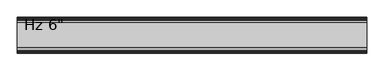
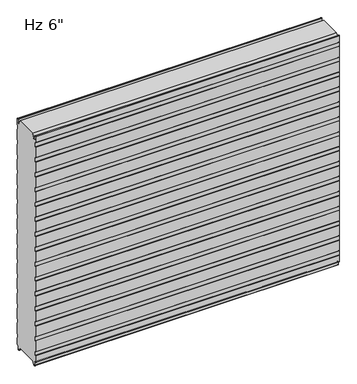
"""IFC4 building model written with IfcOpenShell, lengths in millimetres: plate geometry."""

from ifc_helpers import new_model, si_unit, frame, origin, place, context, project, spatial, polyline, circle_curve, source, transform, mapped, element, save
from ifc_brep_helpers import plane_surface, cylinder_surface, revolved_surface, advanced_brep


def plate_cc50ff87(model_context):
    return source(origin(), model_context, "Body", "AdvancedBrep", [
        advanced_brep(
        [(-730.0, -150.2088405, 1097.7830195), (-730.0, -150.2088405, 1117.5660142), (-730.0, -151.3999956, 1118.6385351), (-730.0, -151.3999956, 1150.8100652), (-730.0, -149.4227271, 1152.7873337), (-730.0, -148.3806285, 1152.7873337), (-730.0, -146.40336, 1150.8100652), (-730.0, -146.40336, 1136.6216802), (-730.0, -143.8154835, 1134.0338036), (-730.0, -139.4950653, 1134.0338036), (-730.0, -138.9060718, 1133.4253365), (-730.0, -138.9060718, 1131.0482432), (-730.0, -137.9065979, 1131.0482432), (-730.0, -137.9065979, 1136.4905123), (-730.0, -128.6490821, 1152.525), (-730.0, -23.7509179, 1152.525), (-730.0, -14.4934021, 1136.4905123), (-730.0, -14.4934021, 1131.0482432), (-730.0, -13.4939282, 1131.0482432), (-730.0, -13.4939282, 1133.4253365), (-730.0, -12.9049347, 1134.0338036), (-730.0, -8.5845165, 1134.0338036), (-730.0, -5.99664, 1136.6216802), (-730.0, -5.99664, 1150.8100652), (-730.0, -4.0193715, 1152.7873337), (-730.0, -2.9772729, 1152.7873337), (-730.0, -1.0000044, 1150.8100652), (-730.0, -1.0000044, 1118.6385351), (-730.0, -2.1911595, 1117.5660142), (-730.0, -2.1911595, 1097.7830195), (-730.0, -1.0, 1096.7104947), (-730.0, -1.0, 1043.0159187), (-730.0, -2.1911595, 1041.9433939), (-730.0, -2.1911595, 1022.1603992), (-730.0, -1.0, 1021.0878744), (-730.0, -1.0, 967.3932985), (-730.0, -2.1911595, 966.3207736), (-730.0, -2.1911595, 946.537779), (-730.0, -1.0, 945.4652541), (-730.0, -1.0, 891.7706782), (-730.0, -2.1911595, 890.6981534), (-730.0, -2.1911595, 870.9151587), (-730.0, -1.0, 869.8426339), (-730.0, -1.0, 816.148058), (-730.0, -2.1911595, 815.0755331), (-730.0, -2.1911595, 795.2925384), (-730.0, -1.0, 794.2200136), (-730.0, -1.0, 740.5254377), (-730.0, -2.1911595, 739.4529129), (-730.0, -2.1911595, 719.6699182), (-730.0, -1.0, 718.5973933), (-730.0, -1.0, 664.9028174), (-730.0, -2.1911595, 663.8302926), (-730.0, -2.1911595, 644.0472979), (-730.0, -1.0, 642.9747731), (-730.0, -1.0, 589.2801972), (-730.0, -2.1911595, 588.2076723), (-730.0, -2.1911595, 568.4246776), (-730.0, -1.0, 567.3521528), (-730.0, -1.0, 513.6575769), (-730.0, -2.1911595, 512.5850521), (-730.0, -2.1911595, 492.8020574), (-730.0, -1.0, 491.7295325), (-730.0, -1.0, 438.0349566), (-730.0, -2.1911595, 436.9624318), (-730.0, -2.1911595, 417.1794371), (-730.0, -1.0, 416.1069123), (-730.0, -1.0, 362.4123364), (-730.0, -2.1911595, 361.3398115), (-730.0, -2.1911595, 341.5568169), (-730.0, -1.0, 340.484292), (-730.0, -1.0, 286.7897161), (-730.0, -2.1911595, 285.7171913), (-730.0, -2.1911595, 265.9341966), (-730.0, -1.0, 264.8616718), (-730.0, -1.0, 211.1670958), (-730.0, -2.1911595, 210.094571), (-730.0, -2.1911595, 190.3115763), (-730.0, -1.0, 189.2390515), (-730.0, -1.0, 135.5444756), (-730.0, -2.1911595, 134.4719507), (-730.0, -2.1911595, 114.6889561), (-730.0, -1.0, 113.6164312), (-730.0, -1.0, 59.9218553), (-730.0, -2.1911595, 58.8493305), (-730.0, -2.1911595, 39.0663358), (-730.0, -1.0000109, 37.993811), (-730.0, -1.0000109, 5.8272239), (-730.0, -2.9772849, 3.8499499), (-730.0, -5.2691749, 3.8499499), (-730.0, -9.246442, -0.1273173), (-730.0, -9.246442, -15.7237417), (-730.0, -9.8343189, -16.3116186), (-730.0, -12.9058679, -16.3116186), (-730.0, -13.4937446, -15.723742), (-730.0, -13.4937446, -13.3687064), (-730.0, -14.4937446, -13.3687064), (-730.0, -14.4937446, -15.6582851), (-730.0, -23.7509179, 0.0), (-730.0, -128.6490865, 0.0), (-730.0, -137.9062554, -15.6582851), (-730.0, -137.9062554, -13.3687064), (-730.0, -138.9062554, -13.3687064), (-730.0, -138.9062554, -15.723742), (-730.0, -139.4941321, -16.3116186), (-730.0, -142.5656811, -16.3116186), (-730.0, -143.153558, -15.7237417), (-730.0, -143.153558, -0.1273173), (-730.0, -147.1308251, 3.8499499), (-730.0, -149.4227151, 3.8499499), (-730.0, -151.3999891, 5.8272239), (-730.0, -151.3999891, 37.993811), (-730.0, -150.2088405, 39.0663358), (-730.0, -150.2088405, 58.8493305), (-730.0, -151.4, 59.9218553), (-730.0, -151.4, 113.6164312), (-730.0, -150.2088405, 114.6889561), (-730.0, -150.2088405, 134.4719507), (-730.0, -151.4, 135.5444756), (-730.0, -151.4, 189.2390515), (-730.0, -150.2088405, 190.3115763), (-730.0, -150.2088405, 210.094571), (-730.0, -151.4, 211.1670958), (-730.0, -151.4, 264.8616718), (-730.0, -150.2088405, 265.9341966), (-730.0, -150.2088405, 285.7171913), (-730.0, -151.4, 286.7897161), (-730.0, -151.4, 340.484292), (-730.0, -150.2088405, 341.5568169), (-730.0, -150.2088405, 361.3398115), (-730.0, -151.4, 362.4123364), (-730.0, -151.4, 416.1069123), (-730.0, -150.2088405, 417.1794371), (-730.0, -150.2088405, 436.9624318), (-730.0, -151.4, 438.0349566), (-730.0, -151.4, 491.7295325), (-730.0, -150.2088405, 492.8020574), (-730.0, -150.2088405, 512.5850521), (-730.0, -151.4, 513.6575769), (-730.0, -151.4, 567.3521528), (-730.0, -150.2088405, 568.4246776), (-730.0, -150.2088405, 588.2076723), (-730.0, -151.4, 589.2801972), (-730.0, -151.4, 642.9747731), (-730.0, -150.2088405, 644.0472979), (-730.0, -150.2088405, 663.8302926), (-730.0, -151.4, 664.9028174), (-730.0, -151.4, 718.5973933), (-730.0, -150.2088405, 719.6699182), (-730.0, -150.2088405, 739.4529129), (-730.0, -151.4, 740.5254377), (-730.0, -151.4, 794.2200136), (-730.0, -150.2088405, 795.2925384), (-730.0, -150.2088405, 815.0755331), (-730.0, -151.4, 816.148058), (-730.0, -151.4, 869.8426339), (-730.0, -150.2088405, 870.9151587), (-730.0, -150.2088405, 890.6981534), (-730.0, -151.4, 891.7706782), (-730.0, -151.4, 945.4652541), (-730.0, -150.2088405, 946.537779), (-730.0, -150.2088405, 966.3207736), (-730.0, -151.4, 967.3932985), (-730.0, -151.4, 1021.0878744), (-730.0, -150.2088405, 1022.1603992), (-730.0, -150.2088405, 1041.9433939), (-730.0, -151.4, 1043.0159187), (-730.0, -151.4, 1096.7104947), (730.0, -150.2088405, 1097.7830195), (730.0, -151.4, 1096.7104947), (730.0, -151.4, 1043.0159187), (730.0, -150.2088405, 1041.9433939), (730.0, -150.2088405, 1022.1603992), (730.0, -151.4, 1021.0878744), (730.0, -151.4, 967.3932985), (730.0, -150.2088405, 966.3207736), (730.0, -150.2088405, 946.537779), (730.0, -151.4, 945.4652541), (730.0, -151.4, 891.7706782), (730.0, -150.2088405, 890.6981534), (730.0, -150.2088405, 870.9151587), (730.0, -151.4, 869.8426339), (730.0, -151.4, 816.148058), (730.0, -150.2088405, 815.0755331), (730.0, -150.2088405, 795.2925384), (730.0, -151.4, 794.2200136), (730.0, -151.4, 740.5254377), (730.0, -150.2088405, 739.4529129), (730.0, -150.2088405, 719.6699182), (730.0, -151.4, 718.5973933), (730.0, -151.4, 664.9028174), (730.0, -150.2088405, 663.8302926), (730.0, -150.2088405, 644.0472979), (730.0, -151.4, 642.9747731), (730.0, -151.4, 589.2801972), (730.0, -150.2088405, 588.2076723), (730.0, -150.2088405, 568.4246776), (730.0, -151.4, 567.3521528), (730.0, -151.4, 513.6575769), (730.0, -150.2088405, 512.5850521), (730.0, -150.2088405, 492.8020574), (730.0, -151.4, 491.7295325), (730.0, -151.4, 438.0349566), (730.0, -150.2088405, 436.9624318), (730.0, -150.2088405, 417.1794371), (730.0, -151.4, 416.1069123), (730.0, -151.4, 362.4123364), (730.0, -150.2088405, 361.3398115), (730.0, -150.2088405, 341.5568169), (730.0, -151.4, 340.484292), (730.0, -151.4, 286.7897161), (730.0, -150.2088405, 285.7171913), (730.0, -150.2088405, 265.9341966), (730.0, -151.4, 264.8616718), (730.0, -151.4, 211.1670958), (730.0, -150.2088405, 210.094571), (730.0, -150.2088405, 190.3115763), (730.0, -151.4, 189.2390515), (730.0, -151.4, 135.5444756), (730.0, -150.2088405, 134.4719507), (730.0, -150.2088405, 114.6889561), (730.0, -151.4, 113.6164312), (730.0, -151.4, 59.9218553), (730.0, -150.2088405, 58.8493305), (730.0, -150.2088405, 39.0663358), (730.0, -151.3999891, 37.993811), (730.0, -151.3999891, 5.8272239), (730.0, -149.4227151, 3.8499499), (730.0, -147.1308251, 3.8499499), (730.0, -143.153558, -0.1273173), (730.0, -143.153558, -15.7237417), (730.0, -142.5656811, -16.3116186), (730.0, -139.4941321, -16.3116186), (730.0, -138.9062554, -15.723742), (730.0, -138.9062554, -13.3687064), (730.0, -137.9062554, -13.3687064), (730.0, -137.9062554, -15.6582851), (730.0, -128.6490821, 0.0), (730.0, -23.7509179, 0.0), (730.0, -14.4937446, -15.6582851), (730.0, -14.4937446, -13.3687064), (730.0, -13.4937446, -13.3687064), (730.0, -13.4937446, -15.723742), (730.0, -12.9058679, -16.3116186), (730.0, -9.8343189, -16.3116186), (730.0, -9.246442, -15.7237417), (730.0, -9.246442, -0.1273173), (730.0, -5.2691749, 3.8499499), (730.0, -2.9772849, 3.8499499), (730.0, -1.0000109, 5.8272239), (730.0, -1.0000109, 37.993811), (730.0, -2.1911595, 39.0663358), (730.0, -2.1911595, 58.8493305), (730.0, -1.0, 59.9218553), (730.0, -1.0, 113.6164312), (730.0, -2.1911595, 114.6889561), (730.0, -2.1911595, 134.4719507), (730.0, -1.0, 135.5444756), (730.0, -1.0, 189.2390515), (730.0, -2.1911595, 190.3115763), (730.0, -2.1911595, 210.094571), (730.0, -1.0, 211.1670958), (730.0, -1.0, 264.8616718), (730.0, -2.1911595, 265.9341966), (730.0, -2.1911595, 285.7171913), (730.0, -1.0, 286.7897161), (730.0, -1.0, 340.484292), (730.0, -2.1911595, 341.5568169), (730.0, -2.1911595, 361.3398115), (730.0, -1.0, 362.4123364), (730.0, -1.0, 416.1069123), (730.0, -2.1911595, 417.1794371), (730.0, -2.1911595, 436.9624318), (730.0, -1.0, 438.0349566), (730.0, -1.0, 491.7295325), (730.0, -2.1911595, 492.8020574), (730.0, -2.1911595, 512.5850521), (730.0, -1.0, 513.6575769), (730.0, -1.0, 567.3521528), (730.0, -2.1911595, 568.4246776), (730.0, -2.1911595, 588.2076723), (730.0, -1.0, 589.2801972), (730.0, -1.0, 642.9747731), (730.0, -2.1911595, 644.0472979), (730.0, -2.1911595, 663.8302926), (730.0, -1.0, 664.9028174), (730.0, -1.0, 718.5973933), (730.0, -2.1911595, 719.6699182), (730.0, -2.1911595, 739.4529129), (730.0, -1.0, 740.5254377), (730.0, -1.0, 794.2200136), (730.0, -2.1911595, 795.2925384), (730.0, -2.1911595, 815.0755331), (730.0, -1.0, 816.148058), (730.0, -1.0, 869.8426339), (730.0, -2.1911595, 870.9151587), (730.0, -2.1911595, 890.6981534), (730.0, -1.0, 891.7706782), (730.0, -1.0, 945.4652541), (730.0, -2.1911595, 946.537779), (730.0, -2.1911595, 966.3207736), (730.0, -1.0, 967.3932985), (730.0, -1.0, 1021.0878744), (730.0, -2.1911595, 1022.1603992), (730.0, -2.1911595, 1041.9433939), (730.0, -1.0, 1043.0159187), (730.0, -1.0, 1096.7104947), (730.0, -2.1911595, 1097.7830195), (730.0, -2.1911595, 1117.5660142), (730.0, -1.0000044, 1118.6385351), (730.0, -1.0000044, 1150.8100652), (730.0, -2.9772729, 1152.7873337), (730.0, -4.0193715, 1152.7873337), (730.0, -5.99664, 1150.8100652), (730.0, -5.99664, 1136.6216802), (730.0, -8.5845165, 1134.0338036), (730.0, -12.9049347, 1134.0338036), (730.0, -13.4939282, 1133.4253365), (730.0, -13.4939282, 1131.0482432), (730.0, -14.4934021, 1131.0482432), (730.0, -14.4934021, 1136.4905123), (730.0, -23.7509179, 1152.525), (730.0, -128.6490865, 1152.525), (730.0, -137.9065979, 1136.4905123), (730.0, -137.9065979, 1131.0482432), (730.0, -138.9060718, 1131.0482432), (730.0, -138.9060718, 1133.4253365), (730.0, -139.4950653, 1134.0338036), (730.0, -143.8154835, 1134.0338036), (730.0, -146.40336, 1136.6216802), (730.0, -146.40336, 1150.8100652), (730.0, -148.3806285, 1152.7873337), (730.0, -149.4227271, 1152.7873337), (730.0, -151.3999956, 1150.8100652), (730.0, -151.3999956, 1118.6385351), (730.0, -150.2088405, 1117.5660142)],
        [
            (0, 1),
            (1, 2),
            (2, 3),
            (3, 4, circle_curve(frame((-730.0, -149.4227271, 1150.8100652), z_axis=(-1.0, 0.0, 0.0), x_axis=(0.0, 0.0, -1.0)), 1.9772685)),
            (4, 5),
            (5, 6, circle_curve(frame((-730.0, -148.3806285, 1150.8100652), z_axis=(-1.0, 0.0, 0.0), x_axis=(0.0, 0.0, -1.0)), 1.9772685)),
            (6, 7),
            (7, 8, circle_curve(frame((-730.0, -143.8154835, 1136.6216802), z_axis=(1.0, 0.0, 0.0), x_axis=(0.0, 0.0, -1.0)), 2.5878765)),
            (8, 9),
            (9, 10, circle_curve(frame((-730.0, -139.4950653, 1133.4444985), z_axis=(-1.0, 0.0, 0.0), x_axis=(0.0, 0.0, -1.0)), 0.5893051)),
            (10, 11),
            (11, 12),
            (12, 13),
            (13, 14),
            (14, 15),
            (15, 16),
            (16, 17),
            (17, 18),
            (18, 19),
            (19, 20, circle_curve(frame((-730.0, -12.9049347, 1133.4444985), z_axis=(-1.0, 0.0, 0.0), x_axis=(0.0, 1.0, 0.0)), 0.5893051)),
            (20, 21),
            (21, 22, circle_curve(frame((-730.0, -8.5845165, 1136.6216802), z_axis=(1.0, 0.0, 0.0), x_axis=(0.0, 1.0, 0.0)), 2.5878765)),
            (22, 23),
            (23, 24, circle_curve(frame((-730.0, -4.0193715, 1150.8100652), z_axis=(-1.0, 0.0, 0.0), x_axis=(0.0, 1.0, 0.0)), 1.9772685)),
            (24, 25),
            (25, 26, circle_curve(frame((-730.0, -2.9772729, 1150.8100652), z_axis=(-1.0, 0.0, 0.0), x_axis=(0.0, 1.0, 0.0)), 1.9772685)),
            (26, 27),
            (27, 28),
            (28, 29),
            (29, 30),
            (30, 31),
            (31, 32),
            (32, 33),
            (33, 34),
            (34, 35),
            (35, 36),
            (36, 37),
            (37, 38),
            (38, 39),
            (39, 40),
            (40, 41),
            (41, 42),
            (42, 43),
            (43, 44),
            (44, 45),
            (45, 46),
            (46, 47),
            (47, 48),
            (48, 49),
            (49, 50),
            (50, 51),
            (51, 52),
            (52, 53),
            (53, 54),
            (54, 55),
            (55, 56),
            (56, 57),
            (57, 58),
            (58, 59),
            (59, 60),
            (60, 61),
            (61, 62),
            (62, 63),
            (63, 64),
            (64, 65),
            (65, 66),
            (66, 67),
            (67, 68),
            (68, 69),
            (69, 70),
            (70, 71),
            (71, 72),
            (72, 73),
            (73, 74),
            (74, 75),
            (75, 76),
            (76, 77),
            (77, 78),
            (78, 79),
            (79, 80),
            (80, 81),
            (81, 82),
            (82, 83),
            (83, 84),
            (84, 85),
            (85, 86),
            (86, 87),
            (87, 88, circle_curve(frame((-730.0, -2.9772849, 5.8272239), z_axis=(-1.0, 0.0, 0.0), x_axis=(0.0, 1.0, 0.0)), 1.977274)),
            (88, 89),
            (89, 90, circle_curve(frame((-730.0, -5.2691749, -0.1273173), z_axis=(1.0, 0.0, 0.0), x_axis=(0.0, 1.0, 0.0)), 3.9772671)),
            (90, 91),
            (91, 92, circle_curve(frame((-730.0, -9.8343189, -15.7237417), z_axis=(-1.0, 0.0, 0.0), x_axis=(0.0, 1.0, 0.0)), 0.5878769)),
            (92, 93),
            (93, 94, circle_curve(frame((-730.0, -12.9058679, -15.723742), z_axis=(-1.0, 0.0, 0.0), x_axis=(0.0, 1.0, 0.0)), 0.5878766)),
            (94, 95),
            (95, 96),
            (96, 97),
            (97, 98),
            (98, 99),
            (99, 100),
            (100, 101),
            (101, 102),
            (102, 103),
            (103, 104, circle_curve(frame((-730.0, -139.4941321, -15.723742), z_axis=(-1.0, 0.0, 0.0), x_axis=(0.0, 0.0, -1.0)), 0.5878766)),
            (104, 105),
            (105, 106, circle_curve(frame((-730.0, -142.5656811, -15.7237417), z_axis=(-1.0, 0.0, 0.0), x_axis=(0.0, 0.0, -1.0)), 0.5878769)),
            (106, 107),
            (107, 108, circle_curve(frame((-730.0, -147.1308251, -0.1273173), z_axis=(1.0, 0.0, 0.0), x_axis=(0.0, 0.0, -1.0)), 3.9772671)),
            (108, 109),
            (109, 110, circle_curve(frame((-730.0, -149.4227151, 5.8272239), z_axis=(-1.0, 0.0, 0.0), x_axis=(0.0, 0.0, -1.0)), 1.977274)),
            (110, 111),
            (111, 112),
            (112, 113),
            (113, 114),
            (114, 115),
            (115, 116),
            (116, 117),
            (117, 118),
            (118, 119),
            (119, 120),
            (120, 121),
            (121, 122),
            (122, 123),
            (123, 124),
            (124, 125),
            (125, 126),
            (126, 127),
            (127, 128),
            (128, 129),
            (129, 130),
            (130, 131),
            (131, 132),
            (132, 133),
            (133, 134),
            (134, 135),
            (135, 136),
            (136, 137),
            (137, 138),
            (138, 139),
            (139, 140),
            (140, 141),
            (141, 142),
            (142, 143),
            (143, 144),
            (144, 145),
            (145, 146),
            (146, 147),
            (147, 148),
            (148, 149),
            (149, 150),
            (150, 151),
            (151, 152),
            (152, 153),
            (153, 154),
            (154, 155),
            (155, 156),
            (156, 157),
            (157, 158),
            (158, 159),
            (159, 160),
            (160, 161),
            (161, 162),
            (162, 163),
            (163, 164),
            (164, 165),
            (165, 166),
            (166, 167),
            (167, 0),
            (168, 169),
            (169, 170),
            (170, 171),
            (171, 172),
            (172, 173),
            (173, 174),
            (174, 175),
            (175, 176),
            (176, 177),
            (177, 178),
            (178, 179),
            (179, 180),
            (180, 181),
            (181, 182),
            (182, 183),
            (183, 184),
            (184, 185),
            (185, 186),
            (186, 187),
            (187, 188),
            (188, 189),
            (189, 190),
            (190, 191),
            (191, 192),
            (192, 193),
            (193, 194),
            (194, 195),
            (195, 196),
            (196, 197),
            (197, 198),
            (198, 199),
            (199, 200),
            (200, 201),
            (201, 202),
            (202, 203),
            (203, 204),
            (204, 205),
            (205, 206),
            (206, 207),
            (207, 208),
            (208, 209),
            (209, 210),
            (210, 211),
            (211, 212),
            (212, 213),
            (213, 214),
            (214, 215),
            (215, 216),
            (216, 217),
            (217, 218),
            (218, 219),
            (219, 220),
            (220, 221),
            (221, 222),
            (222, 223),
            (223, 224),
            (224, 225),
            (225, 226),
            (226, 227, circle_curve(frame((730.0, -149.4227151, 5.8272239), z_axis=(1.0, 0.0, 0.0), x_axis=(0.0, 0.0, -1.0)), 1.977274)),
            (227, 228),
            (228, 229, circle_curve(frame((730.0, -147.1308251, -0.1273173), z_axis=(-1.0, 0.0, 0.0), x_axis=(0.0, 0.0, -1.0)), 3.9772671)),
            (229, 230),
            (230, 231, circle_curve(frame((730.0, -142.5656811, -15.7237417), z_axis=(1.0, 0.0, 0.0), x_axis=(0.0, 0.0, -1.0)), 0.5878769)),
            (231, 232),
            (232, 233, circle_curve(frame((730.0, -139.4941321, -15.723742), z_axis=(1.0, 0.0, 0.0), x_axis=(0.0, 0.0, -1.0)), 0.5878766)),
            (233, 234),
            (234, 235),
            (235, 236),
            (236, 237),
            (237, 238),
            (238, 239),
            (239, 240),
            (240, 241),
            (241, 242),
            (242, 243, circle_curve(frame((730.0, -12.9058679, -15.723742), z_axis=(1.0, 0.0, 0.0), x_axis=(0.0, 1.0, 0.0)), 0.5878766)),
            (243, 244),
            (244, 245, circle_curve(frame((730.0, -9.8343189, -15.7237417), z_axis=(1.0, 0.0, 0.0), x_axis=(0.0, 1.0, 0.0)), 0.5878769)),
            (245, 246),
            (246, 247, circle_curve(frame((730.0, -5.2691749, -0.1273173), z_axis=(-1.0, 0.0, 0.0), x_axis=(0.0, 1.0, 0.0)), 3.9772671)),
            (247, 248),
            (248, 249, circle_curve(frame((730.0, -2.9772849, 5.8272239), z_axis=(1.0, 0.0, 0.0), x_axis=(0.0, 1.0, 0.0)), 1.977274)),
            (249, 250),
            (250, 251),
            (251, 252),
            (252, 253),
            (253, 254),
            (254, 255),
            (255, 256),
            (256, 257),
            (257, 258),
            (258, 259),
            (259, 260),
            (260, 261),
            (261, 262),
            (262, 263),
            (263, 264),
            (264, 265),
            (265, 266),
            (266, 267),
            (267, 268),
            (268, 269),
            (269, 270),
            (270, 271),
            (271, 272),
            (272, 273),
            (273, 274),
            (274, 275),
            (275, 276),
            (276, 277),
            (277, 278),
            (278, 279),
            (279, 280),
            (280, 281),
            (281, 282),
            (282, 283),
            (283, 284),
            (284, 285),
            (285, 286),
            (286, 287),
            (287, 288),
            (288, 289),
            (289, 290),
            (290, 291),
            (291, 292),
            (292, 293),
            (293, 294),
            (294, 295),
            (295, 296),
            (296, 297),
            (297, 298),
            (298, 299),
            (299, 300),
            (300, 301),
            (301, 302),
            (302, 303),
            (303, 304),
            (304, 305),
            (305, 306),
            (306, 307),
            (307, 308),
            (308, 309),
            (309, 310),
            (310, 311, circle_curve(frame((730.0, -2.9772729, 1150.8100652), z_axis=(1.0, 0.0, 0.0), x_axis=(0.0, 1.0, 0.0)), 1.9772685)),
            (311, 312),
            (312, 313, circle_curve(frame((730.0, -4.0193715, 1150.8100652), z_axis=(1.0, 0.0, 0.0), x_axis=(0.0, 1.0, 0.0)), 1.9772685)),
            (313, 314),
            (314, 315, circle_curve(frame((730.0, -8.5845165, 1136.6216802), z_axis=(-1.0, 0.0, 0.0), x_axis=(0.0, 1.0, 0.0)), 2.5878765)),
            (315, 316),
            (316, 317, circle_curve(frame((730.0, -12.9049347, 1133.4444985), z_axis=(1.0, 0.0, 0.0), x_axis=(0.0, 1.0, 0.0)), 0.5893051)),
            (317, 318),
            (318, 319),
            (319, 320),
            (320, 321),
            (321, 322),
            (322, 323),
            (323, 324),
            (324, 325),
            (325, 326),
            (326, 327, circle_curve(frame((730.0, -139.4950653, 1133.4444985), z_axis=(1.0, 0.0, 0.0), x_axis=(0.0, 0.0, -1.0)), 0.5893051)),
            (327, 328),
            (328, 329, circle_curve(frame((730.0, -143.8154835, 1136.6216802), z_axis=(-1.0, 0.0, 0.0), x_axis=(0.0, 0.0, -1.0)), 2.5878765)),
            (329, 330),
            (330, 331, circle_curve(frame((730.0, -148.3806285, 1150.8100652), z_axis=(1.0, 0.0, 0.0), x_axis=(0.0, 0.0, -1.0)), 1.9772685)),
            (331, 332),
            (332, 333, circle_curve(frame((730.0, -149.4227271, 1150.8100652), z_axis=(1.0, 0.0, 0.0), x_axis=(0.0, 0.0, -1.0)), 1.9772685)),
            (333, 334),
            (334, 335),
            (335, 168),
            (28, 308),
            (307, 29),
            (27, 309),
            (26, 310),
            (25, 311),
            (24, 312),
            (23, 313),
            (22, 314),
            (21, 315),
            (20, 316),
            (19, 317),
            (18, 318),
            (17, 319),
            (16, 320),
            (15, 321),
            (97, 239),
            (238, 98),
            (96, 240),
            (95, 241),
            (94, 242),
            (93, 243),
            (92, 244),
            (91, 245),
            (90, 246),
            (89, 247),
            (88, 248),
            (87, 249),
            (86, 250),
            (85, 251),
            (84, 252),
            (83, 253),
            (82, 254),
            (81, 255),
            (80, 256),
            (79, 257),
            (78, 258),
            (77, 259),
            (76, 260),
            (75, 261),
            (74, 262),
            (73, 263),
            (72, 264),
            (71, 265),
            (70, 266),
            (69, 267),
            (68, 268),
            (67, 269),
            (66, 270),
            (65, 271),
            (64, 272),
            (63, 273),
            (62, 274),
            (61, 275),
            (60, 276),
            (59, 277),
            (58, 278),
            (57, 279),
            (56, 280),
            (55, 281),
            (54, 282),
            (53, 283),
            (52, 284),
            (51, 285),
            (50, 286),
            (49, 287),
            (48, 288),
            (47, 289),
            (46, 290),
            (45, 291),
            (44, 292),
            (43, 293),
            (42, 294),
            (41, 295),
            (40, 296),
            (39, 297),
            (38, 298),
            (37, 299),
            (36, 300),
            (35, 301),
            (34, 302),
            (33, 303),
            (32, 304),
            (31, 305),
            (30, 306),
            (14, 322),
            (237, 99),
            (167, 169),
            (168, 0),
            (166, 170),
            (165, 171),
            (164, 172),
            (163, 173),
            (162, 174),
            (161, 175),
            (160, 176),
            (159, 177),
            (158, 178),
            (157, 179),
            (156, 180),
            (155, 181),
            (154, 182),
            (153, 183),
            (152, 184),
            (151, 185),
            (150, 186),
            (149, 187),
            (148, 188),
            (147, 189),
            (146, 190),
            (145, 191),
            (144, 192),
            (143, 193),
            (142, 194),
            (141, 195),
            (140, 196),
            (139, 197),
            (138, 198),
            (137, 199),
            (136, 200),
            (135, 201),
            (134, 202),
            (133, 203),
            (132, 204),
            (131, 205),
            (130, 206),
            (129, 207),
            (128, 208),
            (127, 209),
            (126, 210),
            (125, 211),
            (124, 212),
            (123, 213),
            (122, 214),
            (121, 215),
            (120, 216),
            (119, 217),
            (118, 218),
            (117, 219),
            (116, 220),
            (115, 221),
            (114, 222),
            (113, 223),
            (112, 224),
            (111, 225),
            (110, 226),
            (109, 227),
            (108, 228),
            (107, 229),
            (106, 230),
            (105, 231),
            (104, 232),
            (103, 233),
            (102, 234),
            (101, 235),
            (100, 236),
            (13, 323),
            (12, 324),
            (11, 325),
            (10, 326),
            (9, 327),
            (8, 328),
            (7, 329),
            (6, 330),
            (5, 331),
            (4, 332),
            (3, 333),
            (2, 334),
            (1, 335),
        ],
        [
            plane_surface(frame((-730.0, -151.4, 576.2625), z_axis=(-1.0, 0.0, 0.0), x_axis=(0.0, -1.0, 0.0))),
            plane_surface(frame((730.0, -151.4, 576.2625), z_axis=(1.0, 0.0, 0.0), x_axis=(0.0, -1.0, 0.0))),
            plane_surface(frame((-730.0, -2.1911595, 1097.7830195), z_axis=(0.0, 1.0, 0.0), x_axis=(1.0, 0.0, 0.0))),
            plane_surface(frame((-730.0, -2.1911595, 1117.5660142), z_axis=(0.0, 0.669130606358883, -0.7431448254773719), x_axis=(1.0, 0.0, 0.0))),
            plane_surface(frame((-730.0, -1.0000044, 1118.6385351), z_axis=(0.0, 1.0, 0.0), x_axis=(1.0, 0.0, 0.0))),
            cylinder_surface(frame((-730.0, -2.9772729, 1150.8100652), z_axis=(-1.0, 0.0, 0.0), x_axis=(0.0, 1.0, 0.0)), 1.9772685),
            plane_surface(frame((-730.0, -2.9772729, 1152.7873337), z_axis=(0.0, 0.0, 1.0), x_axis=(1.0, 0.0, 0.0))),
            cylinder_surface(frame((-730.0, -4.0193715, 1150.8100652), z_axis=(-1.0, 0.0, 0.0), x_axis=(0.0, 1.0, 0.0)), 1.9772685),
            plane_surface(frame((-730.0, -5.99664, 1150.8100652), z_axis=(0.0, -1.0, 0.0), x_axis=(1.0, 0.0, 0.0))),
            revolved_surface(polyline([(730.0, -5.996639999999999, 1136.6216802), (-730.0, -5.996639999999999, 1136.6216802)]), (-730.0, -8.5845165, 1136.6216802), (1.0, 0.0, 0.0)),
            plane_surface(frame((-730.0, -8.5845165, 1134.0338036), z_axis=(0.0, 0.0, 1.0), x_axis=(1.0, 0.0, 0.0))),
            cylinder_surface(frame((-730.0, -12.9049347, 1133.4444985), z_axis=(-1.0, 0.0, 0.0), x_axis=(0.0, 1.0, 0.0)), 0.5893051),
            plane_surface(frame((-730.0, -13.4939282, 1133.4253365), z_axis=(0.0, -1.0, 0.0), x_axis=(1.0, 0.0, 0.0))),
            plane_surface(frame((-730.0, -13.4939282, 1131.0482432), z_axis=(0.0, 0.0, 1.0), x_axis=(1.0, 0.0, 0.0))),
            plane_surface(frame((-730.0, -14.4934021, 1131.0482432), z_axis=(0.0, 1.0, 0.0), x_axis=(1.0, 0.0, 0.0))),
            plane_surface(frame((-730.0, -14.4934021, 1136.4905123), z_axis=(0.0, 0.8660254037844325, 0.5000000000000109), x_axis=(1.0, 0.0, 0.0))),
            plane_surface(frame((-730.0, -23.7509179, 0.0), z_axis=(0.0, -0.8608169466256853, -0.5089147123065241), x_axis=(1.0, 0.0, 0.0))),
            plane_surface(frame((-730.0, -14.4937446, -15.6582851), z_axis=(0.0, 1.0, 0.0), x_axis=(1.0, 0.0, 0.0))),
            plane_surface(frame((-730.0, -14.4937446, -13.3687064), z_axis=(0.0, 0.0, -1.0), x_axis=(1.0, 0.0, 0.0))),
            plane_surface(frame((-730.0, -13.4937446, -13.3687064), z_axis=(0.0, -1.0, 0.0), x_axis=(1.0, 0.0, 0.0))),
            cylinder_surface(frame((-730.0, -12.9058679, -15.723742), z_axis=(-1.0, 0.0, 0.0), x_axis=(0.0, 1.0, 0.0)), 0.5878766),
            plane_surface(frame((-730.0, -12.9058679, -16.3116186), z_axis=(0.0, 0.0, -1.0), x_axis=(1.0, 0.0, 0.0))),
            cylinder_surface(frame((-730.0, -9.8343189, -15.7237417), z_axis=(-1.0, 0.0, 0.0), x_axis=(0.0, 1.0, 0.0)), 0.5878769),
            plane_surface(frame((-730.0, -9.246442, -15.7237417), z_axis=(0.0, 1.0, 0.0), x_axis=(1.0, 0.0, 0.0))),
            revolved_surface(polyline([(730.0, -1.2919078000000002, -0.1273173), (-730.0, -1.2919078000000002, -0.1273173)]), (-730.0, -5.2691749, -0.1273173), (1.0, 0.0, 0.0)),
            plane_surface(frame((-730.0, -5.2691749, 3.8499499), z_axis=(0.0, 0.0, -1.0), x_axis=(1.0, 0.0, 0.0))),
            cylinder_surface(frame((-730.0, -2.9772849, 5.8272239), z_axis=(-1.0, 0.0, 0.0), x_axis=(0.0, 1.0, 0.0)), 1.977274),
            plane_surface(frame((-730.0, -1.0000109, 5.8272239), z_axis=(0.0, 1.0, 0.0), x_axis=(1.0, 0.0, 0.0))),
            plane_surface(frame((-730.0, -1.0000109, 37.993811), z_axis=(0.0, 0.6691339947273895, 0.7431417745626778), x_axis=(1.0, 0.0, 0.0))),
            plane_surface(frame((-730.0, -2.1911595, 39.0663358), z_axis=(0.0, 1.0, 0.0), x_axis=(1.0, 0.0, 0.0))),
            plane_surface(frame((-730.0, -2.1911595, 58.8493305), z_axis=(0.0, 0.6691306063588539, -0.7431448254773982), x_axis=(1.0, 0.0, 0.0))),
            plane_surface(frame((-730.0, -1.0, 59.9218553), z_axis=(0.0, 1.0, 0.0), x_axis=(1.0, 0.0, 0.0))),
            plane_surface(frame((-730.0, -1.0, 113.6164312), z_axis=(0.0, 0.6691306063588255, 0.7431448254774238), x_axis=(1.0, 0.0, 0.0))),
            plane_surface(frame((-730.0, -2.1911595, 114.6889561), z_axis=(0.0, 1.0, 0.0), x_axis=(1.0, 0.0, 0.0))),
            plane_surface(frame((-730.0, -2.1911595, 134.4719507), z_axis=(0.0, 0.6691306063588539, -0.7431448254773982), x_axis=(1.0, 0.0, 0.0))),
            plane_surface(frame((-730.0, -1.0, 135.5444756), z_axis=(0.0, 1.0, 0.0), x_axis=(1.0, 0.0, 0.0))),
            plane_surface(frame((-730.0, -1.0, 189.2390515), z_axis=(0.0, 0.669130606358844, 0.743144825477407), x_axis=(1.0, 0.0, 0.0))),
            plane_surface(frame((-730.0, -2.1911595, 190.3115763), z_axis=(0.0, 1.0, 0.0), x_axis=(1.0, 0.0, 0.0))),
            plane_surface(frame((-730.0, -2.1911595, 210.094571), z_axis=(0.0, 0.6691306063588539, -0.7431448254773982), x_axis=(1.0, 0.0, 0.0))),
            plane_surface(frame((-730.0, -1.0, 211.1670958), z_axis=(0.0, 1.0, 0.0), x_axis=(1.0, 0.0, 0.0))),
            plane_surface(frame((-730.0, -1.0, 264.8616718), z_axis=(0.0, 0.6691306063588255, 0.7431448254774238), x_axis=(1.0, 0.0, 0.0))),
            plane_surface(frame((-730.0, -2.1911595, 265.9341966), z_axis=(0.0, 1.0, 0.0), x_axis=(1.0, 0.0, 0.0))),
            plane_surface(frame((-730.0, -2.1911595, 285.7171913), z_axis=(0.0, 0.6691306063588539, -0.7431448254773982), x_axis=(1.0, 0.0, 0.0))),
            plane_surface(frame((-730.0, -1.0, 286.7897161), z_axis=(0.0, 1.0, 0.0), x_axis=(1.0, 0.0, 0.0))),
            plane_surface(frame((-730.0, -1.0, 340.484292), z_axis=(0.0, 0.669130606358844, 0.743144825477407), x_axis=(1.0, 0.0, 0.0))),
            plane_surface(frame((-730.0, -2.1911595, 341.5568169), z_axis=(0.0, 1.0, 0.0), x_axis=(1.0, 0.0, 0.0))),
            plane_surface(frame((-730.0, -2.1911595, 361.3398115), z_axis=(0.0, 0.6691306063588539, -0.7431448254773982), x_axis=(1.0, 0.0, 0.0))),
            plane_surface(frame((-730.0, -1.0, 362.4123364), z_axis=(0.0, 1.0, 0.0), x_axis=(1.0, 0.0, 0.0))),
            plane_surface(frame((-730.0, -1.0, 416.1069123), z_axis=(0.0, 0.669130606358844, 0.743144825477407), x_axis=(1.0, 0.0, 0.0))),
            plane_surface(frame((-730.0, -2.1911595, 417.1794371), z_axis=(0.0, 1.0, 0.0), x_axis=(1.0, 0.0, 0.0))),
            plane_surface(frame((-730.0, -2.1911595, 436.9624318), z_axis=(0.0, 0.6691306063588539, -0.7431448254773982), x_axis=(1.0, 0.0, 0.0))),
            plane_surface(frame((-730.0, -1.0, 438.0349566), z_axis=(0.0, 1.0, 0.0), x_axis=(1.0, 0.0, 0.0))),
            plane_surface(frame((-730.0, -1.0, 491.7295325), z_axis=(0.0, 0.6691306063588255, 0.7431448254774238), x_axis=(1.0, 0.0, 0.0))),
            plane_surface(frame((-730.0, -2.1911595, 492.8020574), z_axis=(0.0, 1.0, 0.0), x_axis=(1.0, 0.0, 0.0))),
            plane_surface(frame((-730.0, -2.1911595, 512.5850521), z_axis=(0.0, 0.6691306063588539, -0.7431448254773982), x_axis=(1.0, 0.0, 0.0))),
            plane_surface(frame((-730.0, -1.0, 513.6575769), z_axis=(0.0, 1.0, 0.0), x_axis=(1.0, 0.0, 0.0))),
            plane_surface(frame((-730.0, -1.0, 567.3521528), z_axis=(0.0, 0.669130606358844, 0.743144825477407), x_axis=(1.0, 0.0, 0.0))),
            plane_surface(frame((-730.0, -2.1911595, 568.4246776), z_axis=(0.0, 1.0, 0.0), x_axis=(1.0, 0.0, 0.0))),
            plane_surface(frame((-730.0, -2.1911595, 588.2076723), z_axis=(0.0, 0.6691306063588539, -0.7431448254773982), x_axis=(1.0, 0.0, 0.0))),
            plane_surface(frame((-730.0, -1.0, 589.2801972), z_axis=(0.0, 1.0, 0.0), x_axis=(1.0, 0.0, 0.0))),
            plane_surface(frame((-730.0, -1.0, 642.9747731), z_axis=(0.0, 0.6691306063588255, 0.7431448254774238), x_axis=(1.0, 0.0, 0.0))),
            plane_surface(frame((-730.0, -2.1911595, 644.0472979), z_axis=(0.0, 1.0, 0.0), x_axis=(1.0, 0.0, 0.0))),
            plane_surface(frame((-730.0, -2.1911595, 663.8302926), z_axis=(0.0, 0.6691306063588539, -0.7431448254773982), x_axis=(1.0, 0.0, 0.0))),
            plane_surface(frame((-730.0, -1.0, 664.9028174), z_axis=(0.0, 1.0, 0.0), x_axis=(1.0, 0.0, 0.0))),
            plane_surface(frame((-730.0, -1.0, 718.5973933), z_axis=(0.0, 0.669130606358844, 0.743144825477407), x_axis=(1.0, 0.0, 0.0))),
            plane_surface(frame((-730.0, -2.1911595, 719.6699182), z_axis=(0.0, 1.0, 0.0), x_axis=(1.0, 0.0, 0.0))),
            plane_surface(frame((-730.0, -2.1911595, 739.4529129), z_axis=(0.0, 0.6691306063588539, -0.7431448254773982), x_axis=(1.0, 0.0, 0.0))),
            plane_surface(frame((-730.0, -1.0, 740.5254377), z_axis=(0.0, 1.0, 0.0), x_axis=(1.0, 0.0, 0.0))),
            plane_surface(frame((-730.0, -1.0, 794.2200136), z_axis=(0.0, 0.6691306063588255, 0.7431448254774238), x_axis=(1.0, 0.0, 0.0))),
            plane_surface(frame((-730.0, -2.1911595, 795.2925384), z_axis=(0.0, 1.0, 0.0), x_axis=(1.0, 0.0, 0.0))),
            plane_surface(frame((-730.0, -2.1911595, 815.0755331), z_axis=(0.0, 0.6691306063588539, -0.7431448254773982), x_axis=(1.0, 0.0, 0.0))),
            plane_surface(frame((-730.0, -1.0, 816.148058), z_axis=(0.0, 1.0, 0.0), x_axis=(1.0, 0.0, 0.0))),
            plane_surface(frame((-730.0, -1.0, 869.8426339), z_axis=(0.0, 0.669130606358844, 0.743144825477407), x_axis=(1.0, 0.0, 0.0))),
            plane_surface(frame((-730.0, -2.1911595, 870.9151587), z_axis=(0.0, 1.0, 0.0), x_axis=(1.0, 0.0, 0.0))),
            plane_surface(frame((-730.0, -2.1911595, 890.6981534), z_axis=(0.0, 0.6691306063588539, -0.7431448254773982), x_axis=(1.0, 0.0, 0.0))),
            plane_surface(frame((-730.0, -1.0, 891.7706782), z_axis=(0.0, 1.0, 0.0), x_axis=(1.0, 0.0, 0.0))),
            plane_surface(frame((-730.0, -1.0, 945.4652541), z_axis=(0.0, 0.669130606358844, 0.743144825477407), x_axis=(1.0, 0.0, 0.0))),
            plane_surface(frame((-730.0, -2.1911595, 946.537779), z_axis=(0.0, 1.0, 0.0), x_axis=(1.0, 0.0, 0.0))),
            plane_surface(frame((-730.0, -2.1911595, 966.3207736), z_axis=(0.0, 0.6691306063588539, -0.7431448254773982), x_axis=(1.0, 0.0, 0.0))),
            plane_surface(frame((-730.0, -1.0, 967.3932985), z_axis=(0.0, 1.0, 0.0), x_axis=(1.0, 0.0, 0.0))),
            plane_surface(frame((-730.0, -1.0, 1021.0878744), z_axis=(0.0, 0.669130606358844, 0.743144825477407), x_axis=(1.0, 0.0, 0.0))),
            plane_surface(frame((-730.0, -2.1911595, 1022.1603992), z_axis=(0.0, 1.0, 0.0), x_axis=(1.0, 0.0, 0.0))),
            plane_surface(frame((-730.0, -2.1911595, 1041.9433939), z_axis=(0.0, 0.6691306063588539, -0.7431448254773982), x_axis=(1.0, 0.0, 0.0))),
            plane_surface(frame((-730.0, -1.0, 1043.0159187), z_axis=(0.0, 1.0, 0.0), x_axis=(1.0, 0.0, 0.0))),
            plane_surface(frame((-730.0, -1.0, 1096.7104947), z_axis=(0.0, 0.669130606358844, 0.743144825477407), x_axis=(1.0, 0.0, 0.0))),
            plane_surface(frame((-730.0, -128.6490865, 1152.525), z_axis=(0.0, 0.0, 1.0), x_axis=(-1.0, 0.0, 0.0))),
            plane_surface(frame((-730.0, -128.6490865, 0.0), z_axis=(0.0, 0.0, -1.0), x_axis=(1.0, 0.0, 0.0))),
            plane_surface(frame((-730.0, -150.2088405, 1097.7830195), z_axis=(0.0, -0.6691306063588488, 0.7431448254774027), x_axis=(1.0, 0.0, 0.0))),
            plane_surface(frame((-730.0, -151.4, 1096.7104947), z_axis=(0.0, -1.0, 0.0), x_axis=(1.0, 0.0, 0.0))),
            plane_surface(frame((-730.0, -151.4, 1043.0159187), z_axis=(0.0, -0.6691306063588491, -0.7431448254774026), x_axis=(1.0, 0.0, 0.0))),
            plane_surface(frame((-730.0, -150.2088405, 1041.9433939), z_axis=(0.0, -1.0, 0.0), x_axis=(1.0, 0.0, 0.0))),
            plane_surface(frame((-730.0, -150.2088405, 1022.1603992), z_axis=(0.0, -0.6691306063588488, 0.7431448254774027), x_axis=(1.0, 0.0, 0.0))),
            plane_surface(frame((-730.0, -151.4, 1021.0878744), z_axis=(0.0, -1.0, 0.0), x_axis=(1.0, 0.0, 0.0))),
            plane_surface(frame((-730.0, -151.4, 967.3932985), z_axis=(0.0, -0.6691306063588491, -0.7431448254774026), x_axis=(1.0, 0.0, 0.0))),
            plane_surface(frame((-730.0, -150.2088405, 966.3207736), z_axis=(0.0, -1.0, 0.0), x_axis=(1.0, 0.0, 0.0))),
            plane_surface(frame((-730.0, -150.2088405, 946.537779), z_axis=(0.0, -0.6691306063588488, 0.7431448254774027), x_axis=(1.0, 0.0, 0.0))),
            plane_surface(frame((-730.0, -151.4, 945.4652541), z_axis=(0.0, -1.0, 0.0), x_axis=(1.0, 0.0, 0.0))),
            plane_surface(frame((-730.0, -151.4, 891.7706782), z_axis=(0.0, -0.6691306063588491, -0.7431448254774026), x_axis=(1.0, 0.0, 0.0))),
            plane_surface(frame((-730.0, -150.2088405, 890.6981534), z_axis=(0.0, -1.0, 0.0), x_axis=(1.0, 0.0, 0.0))),
            plane_surface(frame((-730.0, -150.2088405, 870.9151587), z_axis=(0.0, -0.6691306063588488, 0.7431448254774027), x_axis=(1.0, 0.0, 0.0))),
            plane_surface(frame((-730.0, -151.4, 869.8426339), z_axis=(0.0, -1.0, 0.0), x_axis=(1.0, 0.0, 0.0))),
            plane_surface(frame((-730.0, -151.4, 816.148058), z_axis=(0.0, -0.6691306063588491, -0.7431448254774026), x_axis=(1.0, 0.0, 0.0))),
            plane_surface(frame((-730.0, -150.2088405, 815.0755331), z_axis=(0.0, -1.0, 0.0), x_axis=(1.0, 0.0, 0.0))),
            plane_surface(frame((-730.0, -150.2088405, 795.2925384), z_axis=(0.0, -0.6691306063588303, 0.7431448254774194), x_axis=(1.0, 0.0, 0.0))),
            plane_surface(frame((-730.0, -151.4, 794.2200136), z_axis=(0.0, -1.0, 0.0), x_axis=(1.0, 0.0, 0.0))),
            plane_surface(frame((-730.0, -151.4, 740.5254377), z_axis=(0.0, -0.6691306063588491, -0.7431448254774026), x_axis=(1.0, 0.0, 0.0))),
            plane_surface(frame((-730.0, -150.2088405, 739.4529129), z_axis=(0.0, -1.0, 0.0), x_axis=(1.0, 0.0, 0.0))),
            plane_surface(frame((-730.0, -150.2088405, 719.6699182), z_axis=(0.0, -0.6691306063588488, 0.7431448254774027), x_axis=(1.0, 0.0, 0.0))),
            plane_surface(frame((-730.0, -151.4, 718.5973933), z_axis=(0.0, -1.0, 0.0), x_axis=(1.0, 0.0, 0.0))),
            plane_surface(frame((-730.0, -151.4, 664.9028174), z_axis=(0.0, -0.6691306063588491, -0.7431448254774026), x_axis=(1.0, 0.0, 0.0))),
            plane_surface(frame((-730.0, -150.2088405, 663.8302926), z_axis=(0.0, -1.0, 0.0), x_axis=(1.0, 0.0, 0.0))),
            plane_surface(frame((-730.0, -150.2088405, 644.0472979), z_axis=(0.0, -0.6691306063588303, 0.7431448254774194), x_axis=(1.0, 0.0, 0.0))),
            plane_surface(frame((-730.0, -151.4, 642.9747731), z_axis=(0.0, -1.0, 0.0), x_axis=(1.0, 0.0, 0.0))),
            plane_surface(frame((-730.0, -151.4, 589.2801972), z_axis=(0.0, -0.6691306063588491, -0.7431448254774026), x_axis=(1.0, 0.0, 0.0))),
            plane_surface(frame((-730.0, -150.2088405, 588.2076723), z_axis=(0.0, -1.0, 0.0), x_axis=(1.0, 0.0, 0.0))),
            plane_surface(frame((-730.0, -150.2088405, 568.4246776), z_axis=(0.0, -0.6691306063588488, 0.7431448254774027), x_axis=(1.0, 0.0, 0.0))),
            plane_surface(frame((-730.0, -151.4, 567.3521528), z_axis=(0.0, -1.0, 0.0), x_axis=(1.0, 0.0, 0.0))),
            plane_surface(frame((-730.0, -151.4, 513.6575769), z_axis=(0.0, -0.6691306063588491, -0.7431448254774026), x_axis=(1.0, 0.0, 0.0))),
            plane_surface(frame((-730.0, -150.2088405, 512.5850521), z_axis=(0.0, -1.0, 0.0), x_axis=(1.0, 0.0, 0.0))),
            plane_surface(frame((-730.0, -150.2088405, 492.8020574), z_axis=(0.0, -0.6691306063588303, 0.7431448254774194), x_axis=(1.0, 0.0, 0.0))),
            plane_surface(frame((-730.0, -151.4, 491.7295325), z_axis=(0.0, -1.0, 0.0), x_axis=(1.0, 0.0, 0.0))),
            plane_surface(frame((-730.0, -151.4, 438.0349566), z_axis=(0.0, -0.6691306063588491, -0.7431448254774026), x_axis=(1.0, 0.0, 0.0))),
            plane_surface(frame((-730.0, -150.2088405, 436.9624318), z_axis=(0.0, -1.0, 0.0), x_axis=(1.0, 0.0, 0.0))),
            plane_surface(frame((-730.0, -150.2088405, 417.1794371), z_axis=(0.0, -0.6691306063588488, 0.7431448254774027), x_axis=(1.0, 0.0, 0.0))),
            plane_surface(frame((-730.0, -151.4, 416.1069123), z_axis=(0.0, -1.0, 0.0), x_axis=(1.0, 0.0, 0.0))),
            plane_surface(frame((-730.0, -151.4, 362.4123364), z_axis=(0.0, -0.6691306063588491, -0.7431448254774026), x_axis=(1.0, 0.0, 0.0))),
            plane_surface(frame((-730.0, -150.2088405, 361.3398115), z_axis=(0.0, -1.0, 0.0), x_axis=(1.0, 0.0, 0.0))),
            plane_surface(frame((-730.0, -150.2088405, 341.5568169), z_axis=(0.0, -0.6691306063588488, 0.7431448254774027), x_axis=(1.0, 0.0, 0.0))),
            plane_surface(frame((-730.0, -151.4, 340.484292), z_axis=(0.0, -1.0, 0.0), x_axis=(1.0, 0.0, 0.0))),
            plane_surface(frame((-730.0, -151.4, 286.7897161), z_axis=(0.0, -0.6691306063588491, -0.7431448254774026), x_axis=(1.0, 0.0, 0.0))),
            plane_surface(frame((-730.0, -150.2088405, 285.7171913), z_axis=(0.0, -1.0, 0.0), x_axis=(1.0, 0.0, 0.0))),
            plane_surface(frame((-730.0, -150.2088405, 265.9341966), z_axis=(0.0, -0.6691306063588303, 0.7431448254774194), x_axis=(1.0, 0.0, 0.0))),
            plane_surface(frame((-730.0, -151.4, 264.8616718), z_axis=(0.0, -1.0, 0.0), x_axis=(1.0, 0.0, 0.0))),
            plane_surface(frame((-730.0, -151.4, 211.1670958), z_axis=(0.0, -0.6691306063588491, -0.7431448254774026), x_axis=(1.0, 0.0, 0.0))),
            plane_surface(frame((-730.0, -150.2088405, 210.094571), z_axis=(0.0, -1.0, 0.0), x_axis=(1.0, 0.0, 0.0))),
            plane_surface(frame((-730.0, -150.2088405, 190.3115763), z_axis=(0.0, -0.6691306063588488, 0.7431448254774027), x_axis=(1.0, 0.0, 0.0))),
            plane_surface(frame((-730.0, -151.4, 189.2390515), z_axis=(0.0, -1.0, 0.0), x_axis=(1.0, 0.0, 0.0))),
            plane_surface(frame((-730.0, -151.4, 135.5444756), z_axis=(0.0, -0.6691306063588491, -0.7431448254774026), x_axis=(1.0, 0.0, 0.0))),
            plane_surface(frame((-730.0, -150.2088405, 134.4719507), z_axis=(0.0, -1.0, 0.0), x_axis=(1.0, 0.0, 0.0))),
            plane_surface(frame((-730.0, -150.2088405, 114.6889561), z_axis=(0.0, -0.6691306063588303, 0.7431448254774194), x_axis=(1.0, 0.0, 0.0))),
            plane_surface(frame((-730.0, -151.4, 113.6164312), z_axis=(0.0, -1.0, 0.0), x_axis=(1.0, 0.0, 0.0))),
            plane_surface(frame((-730.0, -151.4, 59.9218553), z_axis=(0.0, -0.6691306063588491, -0.7431448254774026), x_axis=(1.0, 0.0, 0.0))),
            plane_surface(frame((-730.0, -150.2088405, 58.8493305), z_axis=(0.0, -1.0, 0.0), x_axis=(1.0, 0.0, 0.0))),
            plane_surface(frame((-730.0, -150.2088405, 39.0663358), z_axis=(0.0, -0.6691339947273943, 0.7431417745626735), x_axis=(1.0, 0.0, 0.0))),
            plane_surface(frame((-730.0, -151.3999891, 37.993811), z_axis=(0.0, -1.0, 0.0), x_axis=(1.0, 0.0, 0.0))),
            cylinder_surface(frame((-730.0, -149.4227151, 5.8272239), z_axis=(-1.0, 0.0, 0.0), x_axis=(0.0, 0.0, -1.0)), 1.977274),
            plane_surface(frame((-730.0, -149.4227151, 3.8499499), z_axis=(0.0, 0.0, -1.0), x_axis=(1.0, 0.0, 0.0))),
            revolved_surface(polyline([(730.0, -147.1308251, -4.1045844), (-730.0, -147.1308251, -4.1045844)]), (-730.0, -147.1308251, -0.1273173), (1.0, 0.0, 0.0)),
            plane_surface(frame((-730.0, -143.153558, -0.1273173), z_axis=(0.0, -1.0, 0.0), x_axis=(1.0, 0.0, 0.0))),
            cylinder_surface(frame((-730.0, -142.5656811, -15.7237417), z_axis=(-1.0, 0.0, 0.0), x_axis=(0.0, 0.0, -1.0)), 0.5878769),
            plane_surface(frame((-730.0, -142.5656811, -16.3116186), z_axis=(0.0, 0.0, -1.0), x_axis=(1.0, 0.0, 0.0))),
            cylinder_surface(frame((-730.0, -139.4941321, -15.723742), z_axis=(-1.0, 0.0, 0.0), x_axis=(0.0, 0.0, -1.0)), 0.5878766),
            plane_surface(frame((-730.0, -138.9062554, -15.723742), z_axis=(0.0, 1.0, 0.0), x_axis=(1.0, 0.0, 0.0))),
            plane_surface(frame((-730.0, -138.9062554, -13.3687064), z_axis=(0.0, 0.0, -1.0), x_axis=(1.0, 0.0, 0.0))),
            plane_surface(frame((-730.0, -137.9062554, -13.3687064), z_axis=(0.0, -1.0, 0.0), x_axis=(1.0, 0.0, 0.0))),
            plane_surface(frame((-730.0, -137.9062554, -15.6582851), z_axis=(0.0, 0.8608169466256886, -0.5089147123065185), x_axis=(1.0, 0.0, 0.0))),
            plane_surface(frame((-730.0, -128.6490821, 1152.525), z_axis=(0.0, -0.8660254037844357, 0.5000000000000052), x_axis=(1.0, 0.0, 0.0))),
            plane_surface(frame((-730.0, -137.9065979, 1136.4905123), z_axis=(0.0, -1.0, 0.0), x_axis=(1.0, 0.0, 0.0))),
            plane_surface(frame((-730.0, -137.9065979, 1131.0482432), z_axis=(0.0, 0.0, 1.0), x_axis=(1.0, 0.0, 0.0))),
            plane_surface(frame((-730.0, -138.9060718, 1131.0482432), z_axis=(0.0, 1.0, 0.0), x_axis=(1.0, 0.0, 0.0))),
            cylinder_surface(frame((-730.0, -139.4950653, 1133.4444985), z_axis=(-1.0, 0.0, 0.0), x_axis=(0.0, 0.0, -1.0)), 0.5893051),
            plane_surface(frame((-730.0, -139.4950653, 1134.0338036), z_axis=(0.0, 0.0, 1.0), x_axis=(1.0, 0.0, 0.0))),
            revolved_surface(polyline([(730.0, -143.8154835, 1134.0338037), (-730.0, -143.8154835, 1134.0338037)]), (-730.0, -143.8154835, 1136.6216802), (1.0, 0.0, 0.0)),
            plane_surface(frame((-730.0, -146.40336, 1136.6216802), z_axis=(0.0, 1.0, 0.0), x_axis=(1.0, 0.0, 0.0))),
            cylinder_surface(frame((-730.0, -148.3806285, 1150.8100652), z_axis=(-1.0, 0.0, 0.0), x_axis=(0.0, 0.0, -1.0)), 1.9772685),
            plane_surface(frame((-730.0, -148.3806285, 1152.7873337), z_axis=(0.0, 0.0, 1.0), x_axis=(1.0, 0.0, 0.0))),
            cylinder_surface(frame((-730.0, -149.4227271, 1150.8100652), z_axis=(-1.0, 0.0, 0.0), x_axis=(0.0, 0.0, -1.0)), 1.9772685),
            plane_surface(frame((-730.0, -151.3999956, 1150.8100652), z_axis=(0.0, -1.0, 0.0), x_axis=(1.0, 0.0, 0.0))),
            plane_surface(frame((-730.0, -151.3999956, 1118.6385351), z_axis=(0.0, -0.6691306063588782, -0.7431448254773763), x_axis=(1.0, 0.0, 0.0))),
            plane_surface(frame((-730.0, -150.2088405, 1117.5660142), z_axis=(0.0, -1.0, 0.0), x_axis=(1.0, 0.0, 0.0))),
        ],
        [
            (0, [[1, 2, 3, 4, 5, 6, 7, 8, 9, 10, 11, 12, 13, 14, 15, 16, 17, 18, 19, 20, 21, 22, 23, 24, 25, 26, 27, 28, 29, 30, 31, 32, 33, 34, 35, 36, 37, 38, 39, 40, 41, 42, 43, 44, 45, 46, 47, 48, 49, 50, 51, 52, 53, 54, 55, 56, 57, 58, 59, 60, 61, 62, 63, 64, 65, 66, 67, 68, 69, 70, 71, 72, 73, 74, 75, 76, 77, 78, 79, 80, 81, 82, 83, 84, 85, 86, 87, 88, 89, 90, 91, 92, 93, 94, 95, 96, 97, 98, 99, 100, 101, 102, 103, 104, 105, 106, 107, 108, 109, 110, 111, 112, 113, 114, 115, 116, 117, 118, 119, 120, 121, 122, 123, 124, 125, 126, 127, 128, 129, 130, 131, 132, 133, 134, 135, 136, 137, 138, 139, 140, 141, 142, 143, 144, 145, 146, 147, 148, 149, 150, 151, 152, 153, 154, 155, 156, 157, 158, 159, 160, 161, 162, 163, 164, 165, 166, 167, 168]]),
            (1, [[169, 170, 171, 172, 173, 174, 175, 176, 177, 178, 179, 180, 181, 182, 183, 184, 185, 186, 187, 188, 189, 190, 191, 192, 193, 194, 195, 196, 197, 198, 199, 200, 201, 202, 203, 204, 205, 206, 207, 208, 209, 210, 211, 212, 213, 214, 215, 216, 217, 218, 219, 220, 221, 222, 223, 224, 225, 226, 227, 228, 229, 230, 231, 232, 233, 234, 235, 236, 237, 238, 239, 240, 241, 242, 243, 244, 245, 246, 247, 248, 249, 250, 251, 252, 253, 254, 255, 256, 257, 258, 259, 260, 261, 262, 263, 264, 265, 266, 267, 268, 269, 270, 271, 272, 273, 274, 275, 276, 277, 278, 279, 280, 281, 282, 283, 284, 285, 286, 287, 288, 289, 290, 291, 292, 293, 294, 295, 296, 297, 298, 299, 300, 301, 302, 303, 304, 305, 306, 307, 308, 309, 310, 311, 312, 313, 314, 315, 316, 317, 318, 319, 320, 321, 322, 323, 324, 325, 326, 327, 328, 329, 330, 331, 332, 333, 334, 335, 336]]),
            (2, [[337, -308, 338, -29]]),
            (3, [[339, -309, -337, -28]]),
            (4, [[340, -310, -339, -27]]),
            (5, [[341, -311, -340, -26]]),
            (6, [[342, -312, -341, -25]]),
            (7, [[343, -313, -342, -24]]),
            (8, [[344, -314, -343, -23]]),
            (9, [[345, -315, -344, -22]]),
            (10, [[346, -316, -345, -21]]),
            (11, [[347, -317, -346, -20]]),
            (12, [[348, -318, -347, -19]]),
            (13, [[349, -319, -348, -18]]),
            (14, [[350, -320, -349, -17]]),
            (15, [[351, -321, -350, -16]]),
            (16, [[352, -239, 353, -98]]),
            (17, [[354, -240, -352, -97]]),
            (18, [[355, -241, -354, -96]]),
            (19, [[356, -242, -355, -95]]),
            (20, [[357, -243, -356, -94]]),
            (21, [[358, -244, -357, -93]]),
            (22, [[359, -245, -358, -92]]),
            (23, [[360, -246, -359, -91]]),
            (24, [[361, -247, -360, -90]]),
            (25, [[362, -248, -361, -89]]),
            (26, [[363, -249, -362, -88]]),
            (27, [[364, -250, -363, -87]]),
            (28, [[365, -251, -364, -86]]),
            (29, [[366, -252, -365, -85]]),
            (30, [[367, -253, -366, -84]]),
            (31, [[368, -254, -367, -83]]),
            (32, [[369, -255, -368, -82]]),
            (33, [[370, -256, -369, -81]]),
            (34, [[371, -257, -370, -80]]),
            (35, [[372, -258, -371, -79]]),
            (36, [[373, -259, -372, -78]]),
            (37, [[374, -260, -373, -77]]),
            (38, [[375, -261, -374, -76]]),
            (39, [[376, -262, -375, -75]]),
            (40, [[377, -263, -376, -74]]),
            (41, [[378, -264, -377, -73]]),
            (42, [[379, -265, -378, -72]]),
            (43, [[380, -266, -379, -71]]),
            (44, [[381, -267, -380, -70]]),
            (45, [[382, -268, -381, -69]]),
            (46, [[383, -269, -382, -68]]),
            (47, [[384, -270, -383, -67]]),
            (48, [[385, -271, -384, -66]]),
            (49, [[386, -272, -385, -65]]),
            (50, [[387, -273, -386, -64]]),
            (51, [[388, -274, -387, -63]]),
            (52, [[389, -275, -388, -62]]),
            (53, [[390, -276, -389, -61]]),
            (54, [[391, -277, -390, -60]]),
            (55, [[392, -278, -391, -59]]),
            (56, [[393, -279, -392, -58]]),
            (57, [[394, -280, -393, -57]]),
            (58, [[395, -281, -394, -56]]),
            (59, [[396, -282, -395, -55]]),
            (60, [[397, -283, -396, -54]]),
            (61, [[398, -284, -397, -53]]),
            (62, [[399, -285, -398, -52]]),
            (63, [[400, -286, -399, -51]]),
            (64, [[401, -287, -400, -50]]),
            (65, [[402, -288, -401, -49]]),
            (66, [[403, -289, -402, -48]]),
            (67, [[404, -290, -403, -47]]),
            (68, [[405, -291, -404, -46]]),
            (69, [[406, -292, -405, -45]]),
            (70, [[407, -293, -406, -44]]),
            (71, [[408, -294, -407, -43]]),
            (72, [[409, -295, -408, -42]]),
            (73, [[410, -296, -409, -41]]),
            (74, [[411, -297, -410, -40]]),
            (75, [[412, -298, -411, -39]]),
            (76, [[413, -299, -412, -38]]),
            (77, [[414, -300, -413, -37]]),
            (78, [[415, -301, -414, -36]]),
            (79, [[416, -302, -415, -35]]),
            (80, [[417, -303, -416, -34]]),
            (81, [[418, -304, -417, -33]]),
            (82, [[419, -305, -418, -32]]),
            (83, [[420, -306, -419, -31]]),
            (84, [[-338, -307, -420, -30]]),
            (85, [[421, -322, -351, -15]]),
            (86, [[422, -99, -353, -238]]),
            (87, [[423, -169, 424, -168]]),
            (88, [[425, -170, -423, -167]]),
            (89, [[426, -171, -425, -166]]),
            (90, [[427, -172, -426, -165]]),
            (91, [[428, -173, -427, -164]]),
            (92, [[429, -174, -428, -163]]),
            (93, [[430, -175, -429, -162]]),
            (94, [[431, -176, -430, -161]]),
            (95, [[432, -177, -431, -160]]),
            (96, [[433, -178, -432, -159]]),
            (97, [[434, -179, -433, -158]]),
            (98, [[435, -180, -434, -157]]),
            (99, [[436, -181, -435, -156]]),
            (100, [[437, -182, -436, -155]]),
            (101, [[438, -183, -437, -154]]),
            (102, [[439, -184, -438, -153]]),
            (103, [[440, -185, -439, -152]]),
            (104, [[441, -186, -440, -151]]),
            (105, [[442, -187, -441, -150]]),
            (106, [[443, -188, -442, -149]]),
            (107, [[444, -189, -443, -148]]),
            (108, [[445, -190, -444, -147]]),
            (109, [[446, -191, -445, -146]]),
            (110, [[447, -192, -446, -145]]),
            (111, [[448, -193, -447, -144]]),
            (112, [[449, -194, -448, -143]]),
            (113, [[450, -195, -449, -142]]),
            (114, [[451, -196, -450, -141]]),
            (115, [[452, -197, -451, -140]]),
            (116, [[453, -198, -452, -139]]),
            (117, [[454, -199, -453, -138]]),
            (118, [[455, -200, -454, -137]]),
            (119, [[456, -201, -455, -136]]),
            (120, [[457, -202, -456, -135]]),
            (121, [[458, -203, -457, -134]]),
            (122, [[459, -204, -458, -133]]),
            (123, [[460, -205, -459, -132]]),
            (124, [[461, -206, -460, -131]]),
            (125, [[462, -207, -461, -130]]),
            (126, [[463, -208, -462, -129]]),
            (127, [[464, -209, -463, -128]]),
            (128, [[465, -210, -464, -127]]),
            (129, [[466, -211, -465, -126]]),
            (130, [[467, -212, -466, -125]]),
            (131, [[468, -213, -467, -124]]),
            (132, [[469, -214, -468, -123]]),
            (133, [[470, -215, -469, -122]]),
            (134, [[471, -216, -470, -121]]),
            (135, [[472, -217, -471, -120]]),
            (136, [[473, -218, -472, -119]]),
            (137, [[474, -219, -473, -118]]),
            (138, [[475, -220, -474, -117]]),
            (139, [[476, -221, -475, -116]]),
            (140, [[477, -222, -476, -115]]),
            (141, [[478, -223, -477, -114]]),
            (142, [[479, -224, -478, -113]]),
            (143, [[480, -225, -479, -112]]),
            (144, [[481, -226, -480, -111]]),
            (145, [[482, -227, -481, -110]]),
            (146, [[483, -228, -482, -109]]),
            (147, [[484, -229, -483, -108]]),
            (148, [[485, -230, -484, -107]]),
            (149, [[486, -231, -485, -106]]),
            (150, [[487, -232, -486, -105]]),
            (151, [[488, -233, -487, -104]]),
            (152, [[489, -234, -488, -103]]),
            (153, [[490, -235, -489, -102]]),
            (154, [[491, -236, -490, -101]]),
            (155, [[-422, -237, -491, -100]]),
            (156, [[492, -323, -421, -14]]),
            (157, [[493, -324, -492, -13]]),
            (158, [[494, -325, -493, -12]]),
            (159, [[495, -326, -494, -11]]),
            (160, [[496, -327, -495, -10]]),
            (161, [[497, -328, -496, -9]]),
            (162, [[498, -329, -497, -8]]),
            (163, [[499, -330, -498, -7]]),
            (164, [[500, -331, -499, -6]]),
            (165, [[501, -332, -500, -5]]),
            (166, [[502, -333, -501, -4]]),
            (167, [[503, -334, -502, -3]]),
            (168, [[504, -335, -503, -2]]),
            (169, [[-424, -336, -504, -1]]),
        ],
    ),
    ])


if __name__ == "__main__":
    model = new_model("IFC4")
    model_context = context("Model", 3, world=origin())
    ifc_project = project(units=[si_unit("LENGTHUNIT", "METRE", prefix="MILLI")], contexts=[model_context])
    site = spatial("IfcSite", under=ifc_project)
    building = spatial("IfcBuilding", under=site)
    placement = place(None, origin())
    plate_shape = plate_cc50ff87(model_context)
    element("IfcPlate", 1, ObjectType="KIP-SLI-FLI-R19-CP-Hz-SL_SL : Hz 6\"", at=placement, inside=building, context=model_context, shape_type="MappedRepresentation", body=[
        mapped(plate_shape, transform((0.0, 0.0, 0.0), x_axis=(1.0, 0.0, 0.0), y_axis=(0.0, 1.0, 0.0), z_axis=(0.0, 0.0, 1.0))),
    ])
    save(model, "model.ifc")
